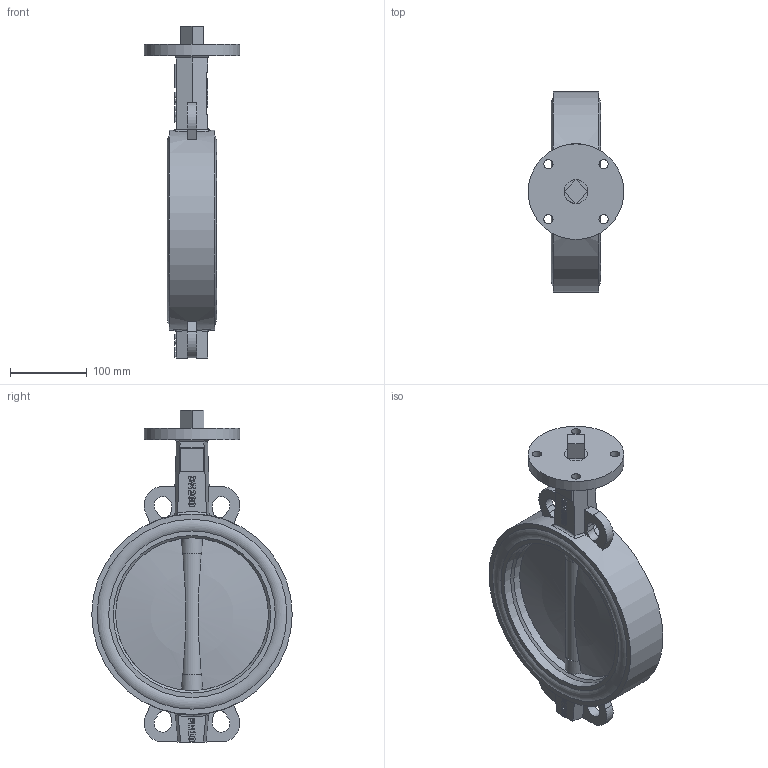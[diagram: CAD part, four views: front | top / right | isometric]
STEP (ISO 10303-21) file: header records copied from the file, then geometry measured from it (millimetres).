
FILE_DESCRIPTION(('STEP AP242'), '1');
FILE_NAME('Ïîâîðîòíûé çàòâîð ïîä ýëåêòðîïðèâîä', '', ('UNSPECIFIED'), ('UNSPECIFIED'), 'C3D Converter', 'C3D Toolkit', '');
FILE_SCHEMA(('AP242_MANAGED_MODEL_BASED_3D_ENGINEERING_MIM_LF { 1 0 10303 442 1 1 4 }'));
Length unit declared in the file: millimetre
Products named in the file (6): П
Assembly tree (6 placements, depth 2):
  (unnamed)
    (unnamed)
    П  x2
    (unnamed)
    (unnamed)
    (unnamed)
Bounding box: 125 x 262 x 434 mm (x, y, z)
Volume: 2277512.2 mm3; surface area: 480638.1 mm2
Topology: 6 solids, 6 shells, 401 faces, 1062 edges, 698 vertices
Faces by surface type: plane 187, extrusion 135, cylinder 57, bspline 8, torus 6, cone 4, sphere 4
Full cylindrical faces by diameter (mm): 11.421 x1, 12 x4, 22 x6, 28.31 x4, 31.113 x5, 125 x1, 200 x1, 205.96 x2, 217.88 x2, 232.987 x4, 248.093 x4, 262 x1
Entity records: 17443 total; most frequent: CARTESIAN_POINT 6098, ORIENTED_EDGE 2024, DIRECTION 1462, EDGE_CURVE 1012, VERTEX_POINT 693, VECTOR 654, LINE 519, EDGE_LOOP 495
